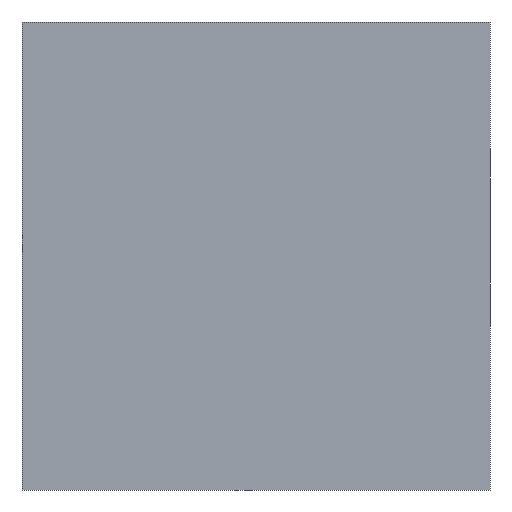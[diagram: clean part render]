
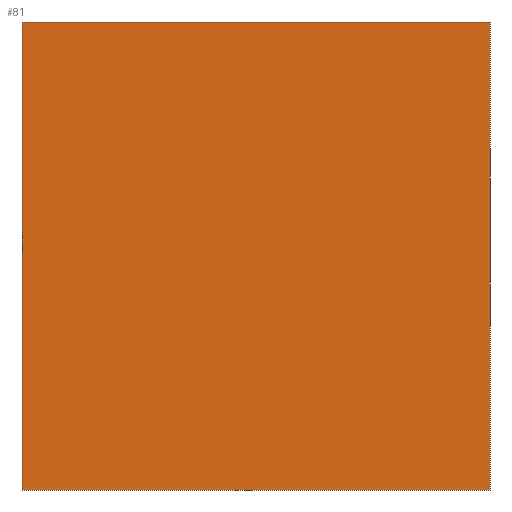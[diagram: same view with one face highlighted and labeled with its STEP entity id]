
A CAD part, front view. The second image highlights one B-rep face of the part: STEP entity #81.
In plain terms, the highlighted planar face has unit normal (0, -1, 0).
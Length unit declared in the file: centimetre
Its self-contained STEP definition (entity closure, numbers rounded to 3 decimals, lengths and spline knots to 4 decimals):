
#8 = VERTEX_POINT ( 'NONE', #784 ) ;
#9 = VECTOR ( 'NONE', #487, 100. ) ;
#20 = DIRECTION ( 'NONE',  ( 0., 0., 1. ) ) ;
#34 = ORIENTED_EDGE ( 'NONE', *, *, #537, .F. ) ;
#36 = DIRECTION ( 'NONE',  ( 0., 0., -1. ) ) ;
#44 = VECTOR ( 'NONE', #220, 100. ) ;
#81 = ADVANCED_FACE ( 'NONE', ( #626 ), #260, .F. ) ;
#123 = CARTESIAN_POINT ( 'NONE',  ( 0., 0., 0. ) ) ;
#205 = CARTESIAN_POINT ( 'NONE',  ( 0., 0., 1000. ) ) ;
#214 = CARTESIAN_POINT ( 'NONE',  ( 0., 0., 1000. ) ) ;
#220 = DIRECTION ( 'NONE',  ( 1., 0., 0. ) ) ;
#232 = DIRECTION ( 'NONE',  ( 0., 0., -1. ) ) ;
#239 = ORIENTED_EDGE ( 'NONE', *, *, #449, .F. ) ;
#255 = LINE ( 'NONE', #384, #9 ) ;
#260 = PLANE ( 'NONE',  #665 ) ;
#300 = LINE ( 'NONE', #344, #577 ) ;
#343 = EDGE_LOOP ( 'NONE', ( #572, #239, #34, #785 ) ) ;
#344 = CARTESIAN_POINT ( 'NONE',  ( 0., 0., 1000. ) ) ;
#352 = VECTOR ( 'NONE', #232, 100. ) ;
#384 = CARTESIAN_POINT ( 'NONE',  ( 0., 0., 1000. ) ) ;
#387 = DIRECTION ( 'NONE',  ( 0., 1., 0. ) ) ;
#449 = EDGE_CURVE ( 'NONE', #8, #645, #480, .T. ) ;
#470 = VERTEX_POINT ( 'NONE', #123 ) ;
#480 = LINE ( 'NONE', #552, #352 ) ;
#487 = DIRECTION ( 'NONE',  ( 1., 0., 0. ) ) ;
#537 = EDGE_CURVE ( 'NONE', #691, #8, #255, .T. ) ;
#552 = CARTESIAN_POINT ( 'NONE',  ( 1000., 0., 1000. ) ) ;
#572 = ORIENTED_EDGE ( 'NONE', *, *, #710, .T. ) ;
#577 = VECTOR ( 'NONE', #36, 100. ) ;
#582 = CARTESIAN_POINT ( 'NONE',  ( 1000., 0., 0. ) ) ;
#626 = FACE_OUTER_BOUND ( 'NONE', #343, .T. ) ;
#645 = VERTEX_POINT ( 'NONE', #582 ) ;
#659 = LINE ( 'NONE', #717, #44 ) ;
#665 = AXIS2_PLACEMENT_3D ( 'NONE', #205, #387, #20 ) ;
#691 = VERTEX_POINT ( 'NONE', #214 ) ;
#710 = EDGE_CURVE ( 'NONE', #470, #645, #659, .T. ) ;
#717 = CARTESIAN_POINT ( 'NONE',  ( 0., 0., 0. ) ) ;
#784 = CARTESIAN_POINT ( 'NONE',  ( 1000., 0., 1000. ) ) ;
#785 = ORIENTED_EDGE ( 'NONE', *, *, #786, .T. ) ;
#786 = EDGE_CURVE ( 'NONE', #691, #470, #300, .T. ) ;
